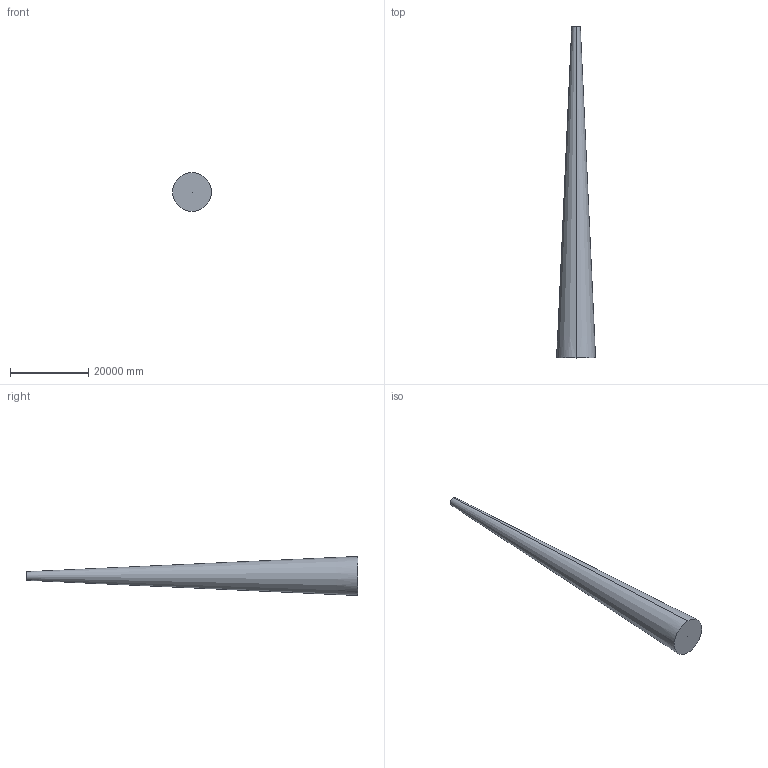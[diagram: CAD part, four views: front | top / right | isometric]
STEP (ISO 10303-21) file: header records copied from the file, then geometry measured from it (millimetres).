
FILE_DESCRIPTION (( 'STEP AP203' ), '1' );
FILE_NAME ('GEO_06_Communications_Spire_And_RCS_Mast.STEP', '2026-10-29T17:29:45', ( 'user' ), ( '' ), 'SwSTEP 2.0', 'SolidWorks 2026', '' );
FILE_SCHEMA (( 'CONFIG_CONTROL_DESIGN' ));
Length unit declared in the file: inch
Products named in the file (1): GEO_06_Communications_Spire_And_RCS_Mast
Bounding box: 10000 x 85000 x 10000 mm (x, y, z)
Volume: 2822563919537.1 mm3; surface area: 2231470621.7 mm2
Topology: 1 solids, 1 shells, 7 faces, 15 edges, 10 vertices
Faces by surface type: plane 4, cone 3
Entity records: 274 total; most frequent: DIRECTION 37, CARTESIAN_POINT 33, ORIENTED_EDGE 30, EDGE_CURVE 15, AXIS2_PLACEMENT_3D 14, VERTEX_POINT 10, LINE 9, VECTOR 9
